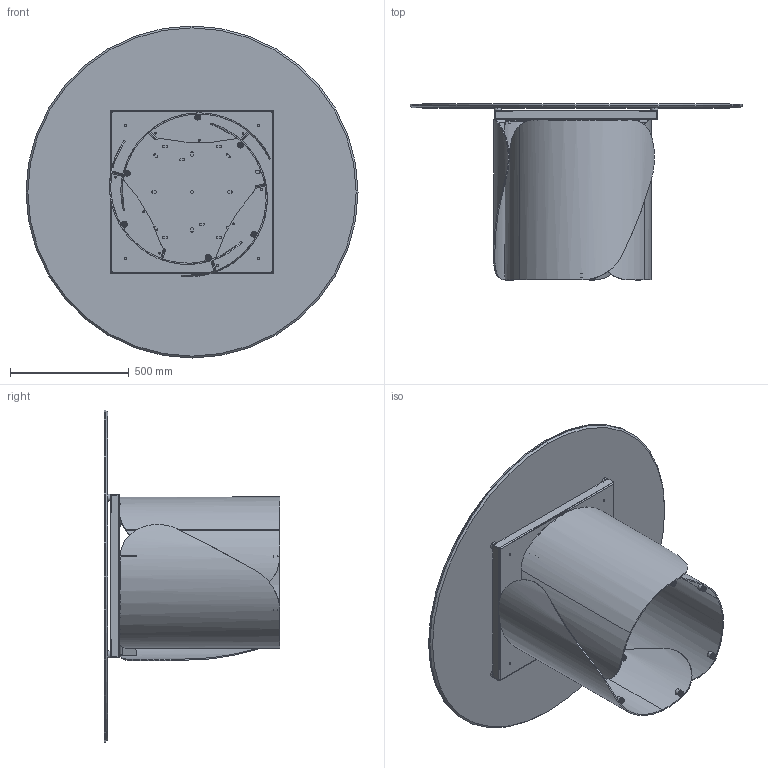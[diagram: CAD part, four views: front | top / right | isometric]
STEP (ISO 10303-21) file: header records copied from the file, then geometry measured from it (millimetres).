
FILE_DESCRIPTION (( 'STEP AP203' ), '1' );
FILE_NAME ('ON06C.STEP', '2024-08-06T13:29:01', ( '' ), ( '' ), 'SwSTEP 2.0', 'SolidWorks 2022', '' );
FILE_SCHEMA (( 'CONFIG_CONTROL_DESIGN' ));
Length unit declared in the file: millimetre
Products named in the file (15): 434070-00-PIEDINO TPV GOMMA NERO D. 30x8max18_filo estetico; OND000000_01-00-PIASTRA SUPERIORE BASE ONDA; rondella M8_8X24; OND000000_02-00-CILINDRO DI FISSAGGIO Ø25X17 M8; TTAV0801-02-TELAIO UNIVERSALE TONDO; ON06C; TTAV0801-02-TELAIO UNIVERSALE TONDO-VASSOIO; COLLO TELAIO UNIVERSALE TTAV0801 CON FERRAMENTA_MTG TOP CRISTALLO VERNICIATO-CERAMICA; PIEDINO PER ONDA; M8xXXmm_M8x20mm; COLLO BASE ONDA SINGOLA CON FERRAMENTA; TTAV0801 TELAIO UNIVERSALE TONDO-PIASTRINA; K1XCMXX-00-Piani Rotondi in ceramica_D.1400; OND000000_03-00-LAMIERA CURVATA PRINCIPALE_OND00000X-00-ONDA BASE GREZZA PROTOTIPO; OND000000-03-ONDA BASE GREZZA
Assembly tree (46 placements, depth 4):
  ON06C
    COLLO TELAIO UNIVERSALE TTAV0801 CON FERRAMENTA_MTG TOP CRISTALLO VERNICIATO-CERAMICA
      TTAV0801-02-TELAIO UNIVERSALE TONDO
        TTAV0801-02-TELAIO UNIVERSALE TONDO-VASSOIO
        TTAV0801 TELAIO UNIVERSALE TONDO-PIASTRINA  x4
      434070-00-PIEDINO TPV GOMMA NERO D. 30x8max18_filo estetico  x4
    COLLO BASE ONDA SINGOLA CON FERRAMENTA  x3
      OND000000-03-ONDA BASE GREZZA
        OND000000_03-00-LAMIERA CURVATA PRINCIPALE_OND00000X-00-ONDA BASE GREZZA PROTOTIPO
        OND000000_01-00-PIASTRA SUPERIORE BASE ONDA
        OND000000_02-00-CILINDRO DI FISSAGGIO Ø25X17 M8  x2
      PIEDINO PER ONDA
    rondella M8_8X24  x12
    M8xXXmm_M8x20mm  x12
    K1XCMXX-00-Piani Rotondi in ceramica_D.1400
Bounding box: 1400 x 742 x 1400 mm (x, y, z)
Volume: 35270735.9 mm3; surface area: 10847371.5 mm2
Topology: 63 solids, 63 shells, 1551 faces, 3661 edges, 2272 vertices
Faces by surface type: plane 628, cylinder 545, torus 184, cone 134, bspline 60
Entity records: 19476 total; most frequent: CARTESIAN_POINT 4535, DIRECTION 2683, ORIENTED_EDGE 2552, EDGE_CURVE 1276, AXIS2_PLACEMENT_3D 980, VERTEX_POINT 822, LINE 723, VECTOR 723
